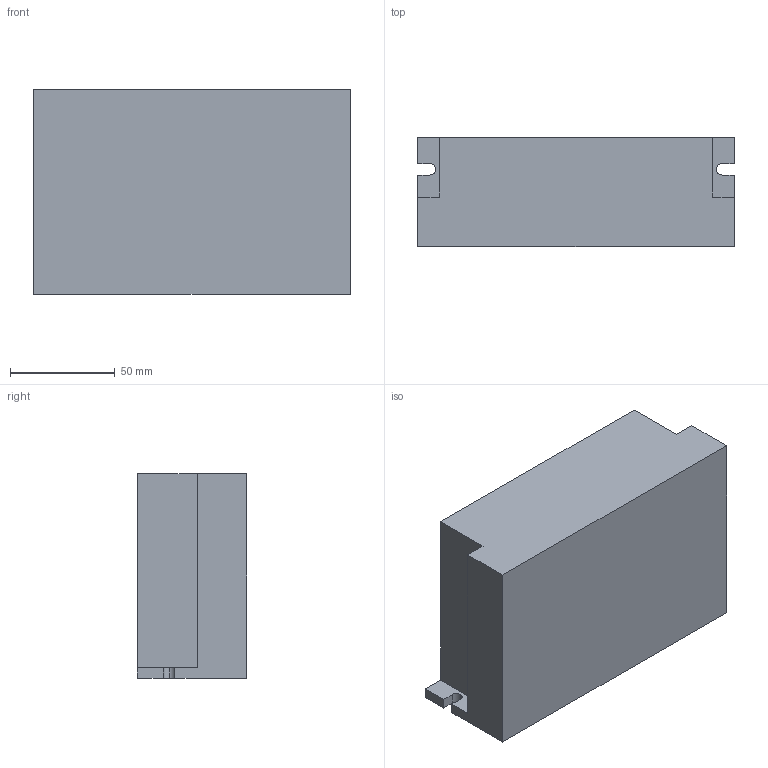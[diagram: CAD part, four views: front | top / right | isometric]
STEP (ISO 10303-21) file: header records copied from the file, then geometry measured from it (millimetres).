
FILE_DESCRIPTION (( 'STEP AP214' ), '1' );
FILE_NAME ('T86.STEP', '2019-08-02T00:17:37', ( 'wimxt.com' ), ( 'wimxt.com' ), 'SwSTEP 2.0', 'SolidWorks 2014', '' );
FILE_SCHEMA (( 'AUTOMOTIVE_DESIGN' ));
Length unit declared in the file: millimetre
Products named in the file (1): T86
Bounding box: 151 x 52 x 97.5 mm (x, y, z)
Volume: 710831 mm3; surface area: 55261.5 mm2
Topology: 1 solids, 1 shells, 21 faces, 57 edges, 38 vertices
Faces by surface type: plane 18, cylinder 3
Entity records: 691 total; most frequent: CARTESIAN_POINT 117, ORIENTED_EDGE 114, DIRECTION 107, EDGE_CURVE 57, VECTOR 51, LINE 51, VERTEX_POINT 38, AXIS2_PLACEMENT_3D 28
